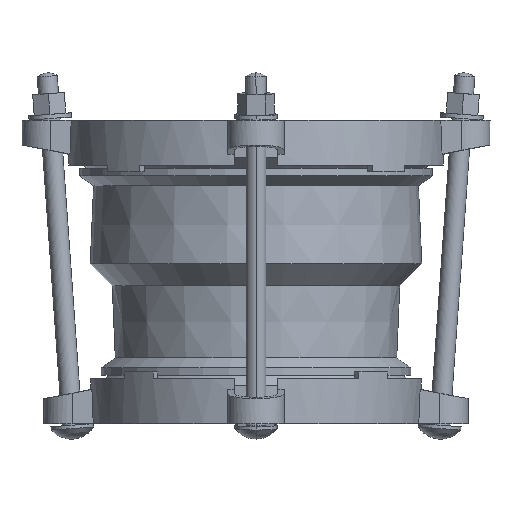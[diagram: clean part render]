
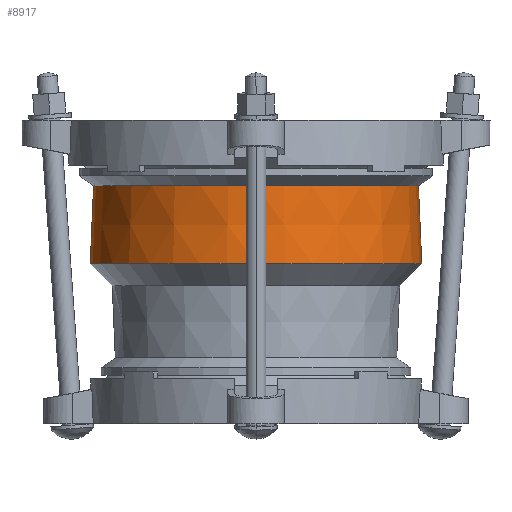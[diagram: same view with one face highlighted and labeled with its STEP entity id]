
A CAD part, left-side view. The second image highlights one B-rep face of the part: STEP entity #8917.
In plain terms, the highlighted conical face has half-angle 2.442 degrees and reference radius 98.351 mm.
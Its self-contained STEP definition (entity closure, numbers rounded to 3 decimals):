
#8550=DIRECTION('',(0.,-0.043,0.999));
#8551=VECTOR('',#8550,46.933);
#8552=CARTESIAN_POINT('',(0.,99.351,-86.272));
#8553=LINE('',#8552,#8551);
#8559=DIRECTION('',(0.,0.043,0.999));
#8560=VECTOR('',#8559,46.933);
#8561=CARTESIAN_POINT('',(0.,-99.351,
-86.272));
#8562=LINE('',#8561,#8560);
#8563=CARTESIAN_POINT('',(0.,0.,-86.272));
#8564=DIRECTION('',(0.,0.,1.));
#8565=DIRECTION('',(0.,1.,0.));
#8566=AXIS2_PLACEMENT_3D('',#8563,#8564,#8565);
#8568=CARTESIAN_POINT('',(0.,0.,-39.381));
#8569=DIRECTION('',(0.,0.,1.));
#8570=DIRECTION('',(0.,1.,0.));
#8571=AXIS2_PLACEMENT_3D('',#8568,#8569,#8570);
#8710=CARTESIAN_POINT('',(0.,99.351,-86.272));
#8711=VERTEX_POINT('',#8710);
#8712=CARTESIAN_POINT('',(0.,97.351,-39.381));
#8713=VERTEX_POINT('',#8712);
#8738=CARTESIAN_POINT('',(0.,-99.351,
-86.272));
#8739=VERTEX_POINT('',#8738);
#8740=CARTESIAN_POINT('',(0.,-97.351,
-39.381));
#8741=VERTEX_POINT('',#8740);
#8905=CARTESIAN_POINT('',(0.,0.,-62.826));
#8906=DIRECTION('',(0.,0.,-1.));
#8907=DIRECTION('',(0.,-1.,0.));
#8908=AXIS2_PLACEMENT_3D('',#8905,#8906,#8907);
#8909=CONICAL_SURFACE('',#8908,98.351,2.442);
#8910=ORIENTED_EDGE('',*,*,#8895,.T.);
#8912=ORIENTED_EDGE('',*,*,#8911,.T.);
#8913=ORIENTED_EDGE('',*,*,#8898,.F.);
#8914=ORIENTED_EDGE('',*,*,#8869,.F.);
#8915=EDGE_LOOP('',(#8910,#8912,#8913,#8914));
#8916=FACE_OUTER_BOUND('',#8915,.F.);
#8917=ADVANCED_FACE('',(#8916),#8909,.T.);
#8567=CIRCLE('',#8566,99.351);
#8572=CIRCLE('',#8571,97.351);
#8869=EDGE_CURVE('',#8711,#8739,#8567,.T.);
#8895=EDGE_CURVE('',#8711,#8713,#8553,.T.);
#8898=EDGE_CURVE('',#8739,#8741,#8562,.T.);
#8911=EDGE_CURVE('',#8713,#8741,#8572,.T.);
